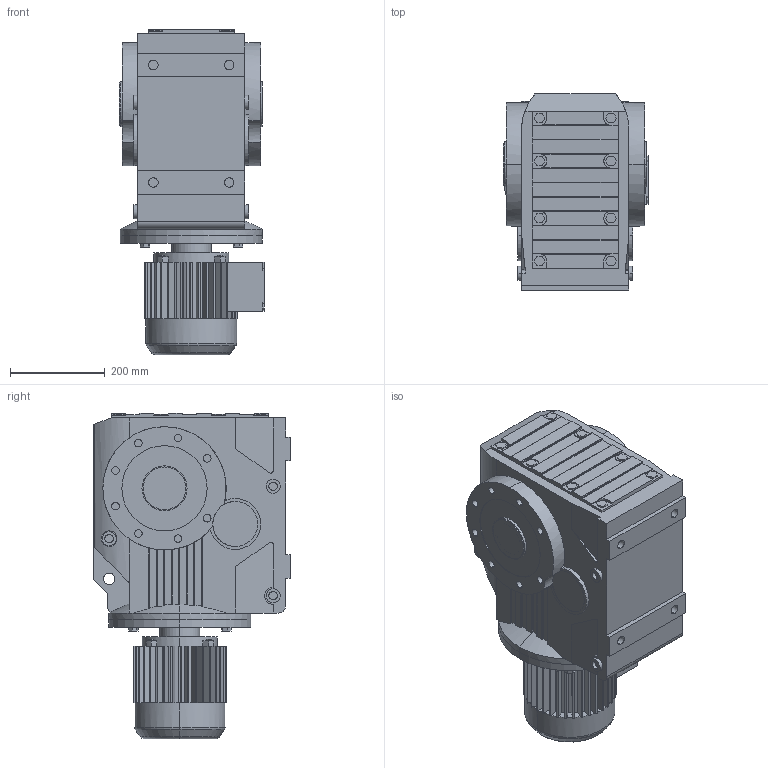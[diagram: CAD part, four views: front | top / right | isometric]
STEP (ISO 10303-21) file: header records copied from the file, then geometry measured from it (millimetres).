
FILE_DESCRIPTION(('Open CASCADE Model'),'2;1');
FILE_NAME('Open CASCADE Shape Model','2018-09-13T10:58:51',('Author'),( 'Open CASCADE'),'Open CASCADE STEP processor 6.3','Open CASCADE 6.3' ,'Unknown');
FILE_SCHEMA(('AUTOMOTIVE_DESIGN_CC2 { 1 2 10303 214 -1 1 5 4 }'));
Length unit declared in the file: millimetre
Products named in the file (4): 35_KA97DT90-A; KA37‵107_97.step; 萇儂_300-DT90-251-336-197-154.step; す瑩諾陑粣K_97.step
Assembly tree (3 placements, depth 2):
  35_KA97DT90-A
    KA37‵107_97.step
    萇儂_300-DT90-251-336-197-154.step
    す瑩諾陑粣K_97.step
Bounding box: 306 x 414 x 686 mm (x, y, z)
Volume: 46830958.4 mm3; surface area: 1579896.7 mm2
Topology: 3 solids, 3 shells, 846 faces, 2206 edges, 1437 vertices
Faces by surface type: plane 556, cylinder 280, cone 6, torus 4
Entity records: 62698 total; most frequent: CARTESIAN_POINT 21286, DIRECTION 6949, ORIENTED_EDGE 4412, PCURVE 4412, DEFINITIONAL_REPRESENTATION 4412, LINE 3621, VECTOR 3621, EDGE_CURVE 2206
